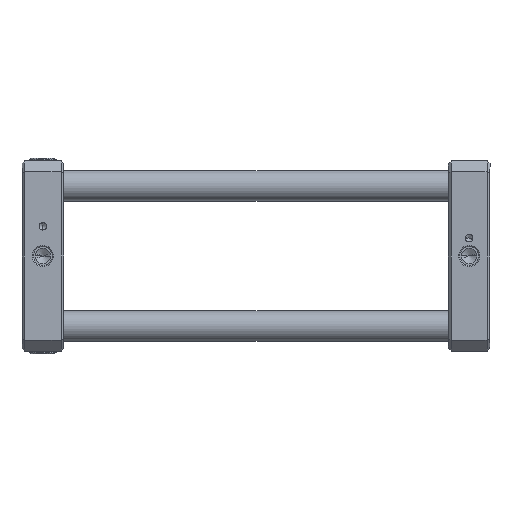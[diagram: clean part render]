
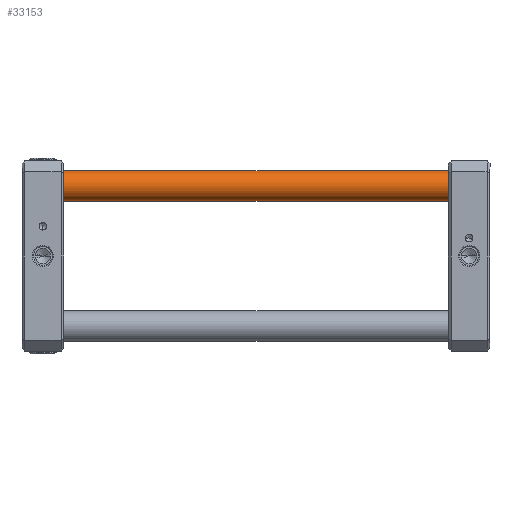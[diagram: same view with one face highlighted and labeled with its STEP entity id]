
A CAD part, front view. The second image highlights one B-rep face of the part: STEP entity #33153.
In plain terms, the highlighted cylindrical face has radius 3.26 mm (diameter 6.52 mm), a partial arc.
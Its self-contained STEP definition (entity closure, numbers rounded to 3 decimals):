
#1223 = LINE ( 'NONE', #23645, #22915 ) ;
#1618 = CARTESIAN_POINT ( 'NONE',  ( 3.26, 0., 100. ) ) ;
#5214 = VERTEX_POINT ( 'NONE', #31465 ) ;
#5712 = ORIENTED_EDGE ( 'NONE', *, *, #35036, .F. ) ;
#6068 = CIRCLE ( 'NONE', #32098, 3.26 ) ;
#7201 = VECTOR ( 'NONE', #9801, 1000. ) ;
#9801 = DIRECTION ( 'NONE',  ( 0., 0., -1. ) ) ;
#10700 = CIRCLE ( 'NONE', #20131, 3.26 ) ;
#10907 = DIRECTION ( 'NONE',  ( 0., 0., -1. ) ) ;
#10981 = EDGE_CURVE ( 'NONE', #30096, #5214, #1223, .T. ) ;
#11421 = CYLINDRICAL_SURFACE ( 'NONE', #17168, 3.26 ) ;
#11907 = CARTESIAN_POINT ( 'NONE',  ( -3.26, 0., 99.8 ) ) ;
#13547 = ORIENTED_EDGE ( 'NONE', *, *, #10981, .T. ) ;
#16410 = CARTESIAN_POINT ( 'NONE',  ( 0., 0., 100. ) ) ;
#17168 = AXIS2_PLACEMENT_3D ( 'NONE', #16410, #31229, #28447 ) ;
#17746 = ORIENTED_EDGE ( 'NONE', *, *, #36118, .T. ) ;
#20131 = AXIS2_PLACEMENT_3D ( 'NONE', #25728, #31094, #36458 ) ;
#21471 = LINE ( 'NONE', #1618, #7201 ) ;
#22915 = VECTOR ( 'NONE', #32181, 1000. ) ;
#23645 = CARTESIAN_POINT ( 'NONE',  ( -3.26, 0., 100. ) ) ;
#23900 = ORIENTED_EDGE ( 'NONE', *, *, #24503, .T. ) ;
#24088 = CARTESIAN_POINT ( 'NONE',  ( 3.26, 0., 0.2 ) ) ;
#24219 = VERTEX_POINT ( 'NONE', #24088 ) ;
#24503 = EDGE_CURVE ( 'NONE', #5214, #24219, #10700, .T. ) ;
#25302 = FACE_OUTER_BOUND ( 'NONE', #33111, .T. ) ;
#25728 = CARTESIAN_POINT ( 'NONE',  ( 0., 0., 0.2 ) ) ;
#28447 = DIRECTION ( 'NONE',  ( -1., 0., 0. ) ) ;
#29499 = CARTESIAN_POINT ( 'NONE',  ( 3.26, 0., 99.8 ) ) ;
#30096 = VERTEX_POINT ( 'NONE', #11907 ) ;
#30895 = DIRECTION ( 'NONE',  ( 1., 0., 0. ) ) ;
#31094 = DIRECTION ( 'NONE',  ( 0., 0., 1. ) ) ;
#31229 = DIRECTION ( 'NONE',  ( 0., 0., -1. ) ) ;
#31465 = CARTESIAN_POINT ( 'NONE',  ( -3.26, 0., 0.2 ) ) ;
#32098 = AXIS2_PLACEMENT_3D ( 'NONE', #33664, #10907, #30895 ) ;
#32181 = DIRECTION ( 'NONE',  ( 0., 0., -1. ) ) ;
#33111 = EDGE_LOOP ( 'NONE', ( #5712, #17746, #13547, #23900 ) ) ;
#33153 = ADVANCED_FACE ( 'NONE', ( #25302 ), #11421, .T. ) ;
#33664 = CARTESIAN_POINT ( 'NONE',  ( 0., 0., 99.8 ) ) ;
#34516 = VERTEX_POINT ( 'NONE', #29499 ) ;
#35036 = EDGE_CURVE ( 'NONE', #34516, #24219, #21471, .T. ) ;
#36118 = EDGE_CURVE ( 'NONE', #34516, #30096, #6068, .T. ) ;
#36458 = DIRECTION ( 'NONE',  ( 1., 0., 0. ) ) ;
